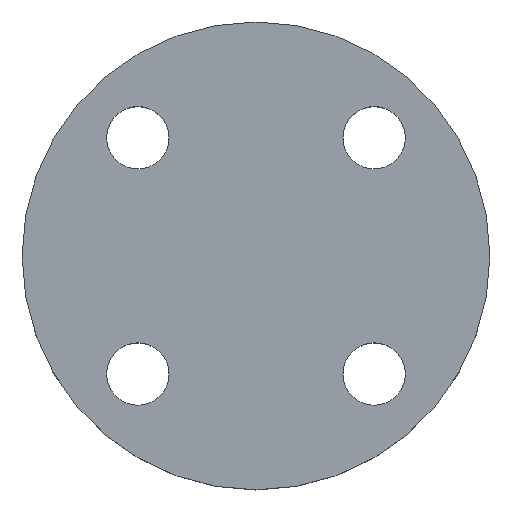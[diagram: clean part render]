
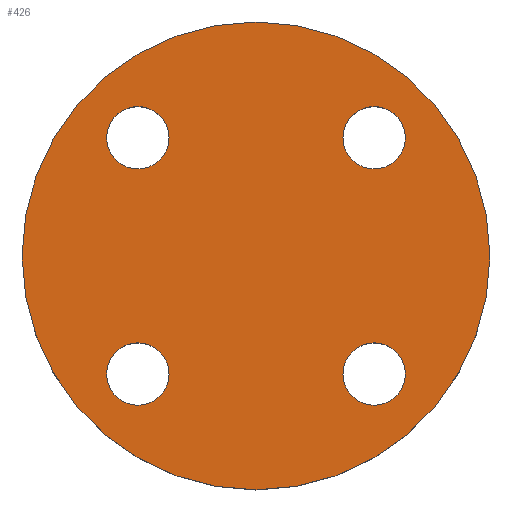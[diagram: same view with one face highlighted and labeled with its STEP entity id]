
A CAD part, top view. The second image highlights one B-rep face of the part: STEP entity #426.
In plain terms, the highlighted planar face has unit normal (0, 0, 1).
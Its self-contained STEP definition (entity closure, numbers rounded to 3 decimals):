
#4 = AXIS2_PLACEMENT_3D ( 'NONE', #486, #509, #456 ) ;
#8 = CARTESIAN_POINT ( 'NONE',  ( 19.517, 26.517, 0. ) ) ;
#9 = CIRCLE ( 'NONE', #207, 7. ) ;
#12 = CARTESIAN_POINT ( 'NONE',  ( -33.517, 26.517, 0. ) ) ;
#18 = CARTESIAN_POINT ( 'NONE',  ( -52.5, 0., 0. ) ) ;
#22 = CARTESIAN_POINT ( 'NONE',  ( -33.517, -26.517, 0. ) ) ;
#24 = CIRCLE ( 'NONE', #191, 52.5 ) ;
#34 = CARTESIAN_POINT ( 'NONE',  ( -19.517, -26.517, 0. ) ) ;
#41 = CARTESIAN_POINT ( 'NONE',  ( 52.5, 0., 0. ) ) ;
#43 = FACE_BOUND ( 'NONE', #447, .T. ) ;
#44 = FACE_BOUND ( 'NONE', #444, .T. ) ;
#45 = FACE_BOUND ( 'NONE', #288, .T. ) ;
#46 = FACE_OUTER_BOUND ( 'NONE', #425, .T. ) ;
#47 = PLANE ( 'NONE',  #253 ) ;
#48 = CARTESIAN_POINT ( 'NONE',  ( 0., 0., 0. ) ) ;
#49 = DIRECTION ( 'NONE',  ( 0., 0., 1. ) ) ;
#51 = DIRECTION ( 'NONE',  ( 1., 0., 0. ) ) ;
#55 = AXIS2_PLACEMENT_3D ( 'NONE', #608, #609, #610 ) ;
#58 = CARTESIAN_POINT ( 'NONE',  ( -26.517, -26.517, 0. ) ) ;
#59 = DIRECTION ( 'NONE',  ( 0., 0., -1. ) ) ;
#61 = DIRECTION ( 'NONE',  ( -1., 0., 0. ) ) ;
#65 = CIRCLE ( 'NONE', #72, 7. ) ;
#72 = AXIS2_PLACEMENT_3D ( 'NONE', #229, #241, #243 ) ;
#87 = EDGE_CURVE ( 'NONE', #244, #236, #102, .T. ) ;
#102 = CIRCLE ( 'NONE', #120, 7. ) ;
#120 = AXIS2_PLACEMENT_3D ( 'NONE', #512, #513, #514 ) ;
#122 = AXIS2_PLACEMENT_3D ( 'NONE', #596, #597, #598 ) ;
#125 = CARTESIAN_POINT ( 'NONE',  ( 33.517, -26.517, 0. ) ) ;
#150 = AXIS2_PLACEMENT_3D ( 'NONE', #58, #59, #61 ) ;
#172 = EDGE_CURVE ( 'NONE', #236, #244, #282, .T. ) ;
#173 = CARTESIAN_POINT ( 'NONE',  ( -26.517, 26.517, 0. ) ) ;
#177 = DIRECTION ( 'NONE',  ( 0., 0., -1. ) ) ;
#179 = DIRECTION ( 'NONE',  ( -1., 0., 0. ) ) ;
#189 = CARTESIAN_POINT ( 'NONE',  ( 33.517, 26.517, 0. ) ) ;
#191 = AXIS2_PLACEMENT_3D ( 'NONE', #660, #661, #662 ) ;
#205 = CIRCLE ( 'NONE', #4, 52.5 ) ;
#207 = AXIS2_PLACEMENT_3D ( 'NONE', #173, #177, #179 ) ;
#210 = EDGE_CURVE ( 'NONE', #390, #397, #212, .T. ) ;
#212 = CIRCLE ( 'NONE', #122, 7. ) ;
#218 = CIRCLE ( 'NONE', #55, 7. ) ;
#222 = EDGE_CURVE ( 'NONE', #413, #405, #218, .T. ) ;
#229 = CARTESIAN_POINT ( 'NONE',  ( 26.517, 26.517, 0. ) ) ;
#232 = EDGE_LOOP ( 'NONE', ( #311, #312 ) ) ;
#236 = VERTEX_POINT ( 'NONE', #622 ) ;
#241 = DIRECTION ( 'NONE',  ( 0., 0., -1. ) ) ;
#243 = DIRECTION ( 'NONE',  ( -1., 0., 0. ) ) ;
#244 = VERTEX_POINT ( 'NONE', #125 ) ;
#245 = CARTESIAN_POINT ( 'NONE',  ( 26.517, 26.517, 0. ) ) ;
#246 = AXIS2_PLACEMENT_3D ( 'NONE', #245, #247, #248 ) ;
#247 = DIRECTION ( 'NONE',  ( 0., 0., -1. ) ) ;
#248 = DIRECTION ( 'NONE',  ( -1., 0., 0. ) ) ;
#253 = AXIS2_PLACEMENT_3D ( 'NONE', #48, #49, #51 ) ;
#282 = CIRCLE ( 'NONE', #284, 7. ) ;
#284 = AXIS2_PLACEMENT_3D ( 'NONE', #568, #569, #570 ) ;
#288 = EDGE_LOOP ( 'NONE', ( #322, #323 ) ) ;
#302 = CARTESIAN_POINT ( 'NONE',  ( -19.517, 26.517, 0. ) ) ;
#311 = ORIENTED_EDGE ( 'NONE', *, *, #87, .T. ) ;
#312 = ORIENTED_EDGE ( 'NONE', *, *, #172, .T. ) ;
#316 = ORIENTED_EDGE ( 'NONE', *, *, #222, .T. ) ;
#317 = ORIENTED_EDGE ( 'NONE', *, *, #460, .T. ) ;
#319 = ORIENTED_EDGE ( 'NONE', *, *, #210, .T. ) ;
#321 = ORIENTED_EDGE ( 'NONE', *, *, #527, .T. ) ;
#322 = ORIENTED_EDGE ( 'NONE', *, *, #562, .T. ) ;
#323 = ORIENTED_EDGE ( 'NONE', *, *, #557, .T. ) ;
#324 = ORIENTED_EDGE ( 'NONE', *, *, #370, .T. ) ;
#326 = ORIENTED_EDGE ( 'NONE', *, *, #613, .T. ) ;
#333 = FACE_BOUND ( 'NONE', #232, .T. ) ;
#370 = EDGE_CURVE ( 'NONE', #424, #401, #24, .T. ) ;
#390 = VERTEX_POINT ( 'NONE', #302 ) ;
#391 = VERTEX_POINT ( 'NONE', #189 ) ;
#395 = VERTEX_POINT ( 'NONE', #8 ) ;
#397 = VERTEX_POINT ( 'NONE', #12 ) ;
#401 = VERTEX_POINT ( 'NONE', #18 ) ;
#404 = CIRCLE ( 'NONE', #246, 7. ) ;
#405 = VERTEX_POINT ( 'NONE', #22 ) ;
#413 = VERTEX_POINT ( 'NONE', #34 ) ;
#424 = VERTEX_POINT ( 'NONE', #41 ) ;
#425 = EDGE_LOOP ( 'NONE', ( #324, #326 ) ) ;
#426 = ADVANCED_FACE ( 'NONE', ( #333, #43, #44, #45, #46 ), #47, .T. ) ;
#444 = EDGE_LOOP ( 'NONE', ( #319, #321 ) ) ;
#447 = EDGE_LOOP ( 'NONE', ( #316, #317 ) ) ;
#456 = DIRECTION ( 'NONE',  ( 1., 0., 0. ) ) ;
#460 = EDGE_CURVE ( 'NONE', #405, #413, #651, .T. ) ;
#486 = CARTESIAN_POINT ( 'NONE',  ( 0., 0., 0. ) ) ;
#509 = DIRECTION ( 'NONE',  ( 0., 0., 1. ) ) ;
#512 = CARTESIAN_POINT ( 'NONE',  ( 26.517, -26.517, 0. ) ) ;
#513 = DIRECTION ( 'NONE',  ( 0., 0., -1. ) ) ;
#514 = DIRECTION ( 'NONE',  ( -1., 0., 0. ) ) ;
#527 = EDGE_CURVE ( 'NONE', #397, #390, #9, .T. ) ;
#557 = EDGE_CURVE ( 'NONE', #395, #391, #65, .T. ) ;
#562 = EDGE_CURVE ( 'NONE', #391, #395, #404, .T. ) ;
#568 = CARTESIAN_POINT ( 'NONE',  ( 26.517, -26.517, 0. ) ) ;
#569 = DIRECTION ( 'NONE',  ( 0., 0., -1. ) ) ;
#570 = DIRECTION ( 'NONE',  ( -1., 0., 0. ) ) ;
#596 = CARTESIAN_POINT ( 'NONE',  ( -26.517, 26.517, 0. ) ) ;
#597 = DIRECTION ( 'NONE',  ( 0., 0., -1. ) ) ;
#598 = DIRECTION ( 'NONE',  ( -1., 0., 0. ) ) ;
#608 = CARTESIAN_POINT ( 'NONE',  ( -26.517, -26.517, 0. ) ) ;
#609 = DIRECTION ( 'NONE',  ( 0., 0., -1. ) ) ;
#610 = DIRECTION ( 'NONE',  ( -1., 0., 0. ) ) ;
#613 = EDGE_CURVE ( 'NONE', #401, #424, #205, .T. ) ;
#622 = CARTESIAN_POINT ( 'NONE',  ( 19.517, -26.517, 0. ) ) ;
#651 = CIRCLE ( 'NONE', #150, 7. ) ;
#660 = CARTESIAN_POINT ( 'NONE',  ( 0., 0., 0. ) ) ;
#661 = DIRECTION ( 'NONE',  ( 0., 0., 1. ) ) ;
#662 = DIRECTION ( 'NONE',  ( 1., 0., 0. ) ) ;
